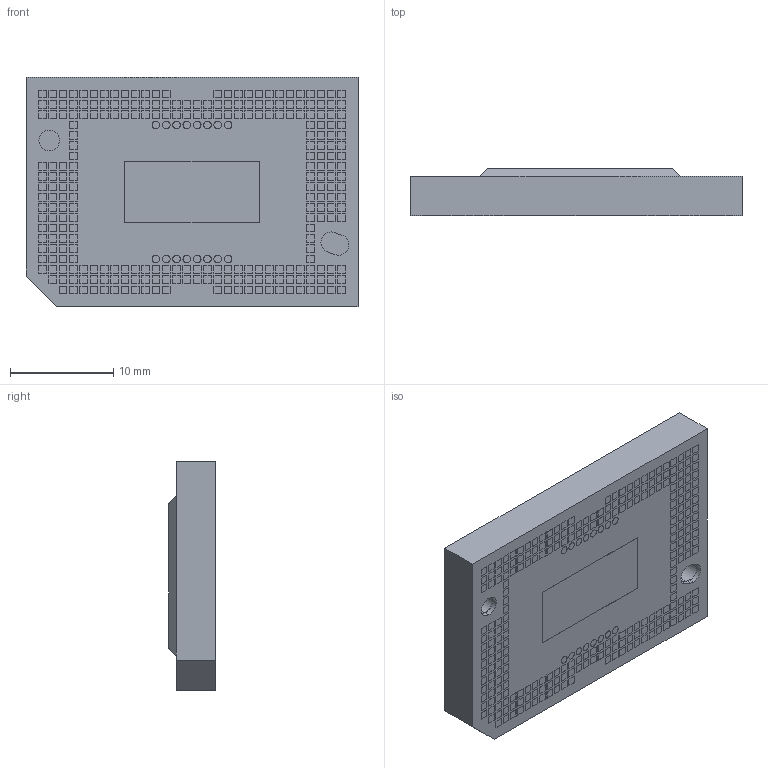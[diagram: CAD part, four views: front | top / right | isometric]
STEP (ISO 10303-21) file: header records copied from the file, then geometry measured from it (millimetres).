
FILE_DESCRIPTION (( 'STEP AP214' ), '1' );
FILE_NAME ('s410-50-Industrial-DMD.STEP', '2020-03-02T14:24:03', ( 'TI User' ), ( 'Texas Instruments, Inc' ), 'SwSTEP 2.0', 'SolidWorks 2017', '' );
FILE_SCHEMA (( 'AUTOMOTIVE_DESIGN' ));
Length unit declared in the file: millimetre
Products named in the file (7): Elec-Pad-Assy; s410-50-Industrial-Ceramic; SymPadA-s410; s410-50-Industrial-DMD; s410-Window-All; Test-Pad-s410-DMD; Elec-Pad-s410-DMD
Assembly tree (277 placements, depth 3):
  s410-50-Industrial-DMD
    s410-50-Industrial-Ceramic
    s410-Window-All
    Elec-Pad-Assy
      Elec-Pad-s410-DMD  x257
      Test-Pad-s410-DMD  x16
    SymPadA-s410
Bounding box: 32.2 x 4.56 x 22.3 mm (x, y, z)
Volume: 2661 mm3; surface area: 3249.3 mm2
Topology: 276 solids, 276 shells, 1698 faces, 3391 edges, 2258 vertices
Faces by surface type: plane 1642, cylinder 56
Entity records: 5631 total; most frequent: DIRECTION 1047, CARTESIAN_POINT 762, ORIENTED_EDGE 458, AXIS2_PLACEMENT_3D 435, PRODUCT_DEFINITION_SHAPE 284, CONTEXT_DEPENDENT_SHAPE_REPRESENTATION 277, ITEM_DEFINED_TRANSFORMATION 277, NEXT_ASSEMBLY_USAGE_OCCURRENCE 277
